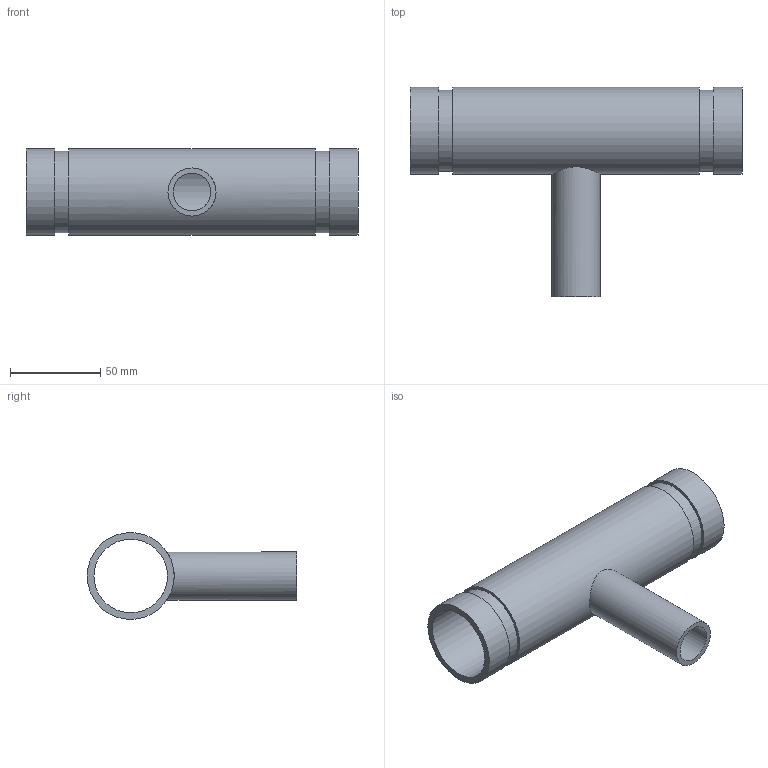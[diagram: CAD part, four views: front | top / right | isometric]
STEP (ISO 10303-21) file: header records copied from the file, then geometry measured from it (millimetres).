
FILE_DESCRIPTION(/* description */ ('VIC REDUCING TEE No 29T FFT (OGSxMPT)','CAx-IF Rec.Pracs.---Representation and Presentation of Product Manufacturing Information (PMI)---4.0---2014-10-13'),/* implementation_level */ '2;1');
FILE_NAME(/* name */ 'C:\Users\kkamble\AppData\Roaming\Autodesk\ApplicationPlugins\Back Up\Victaulic_IPS_Tee Reducing_No 29T FFT (OGSxMPT)\Victaulic_IPS_Tee Reducing_No 29T FFT (OGSxMPT)_01.5x0.75 (40x20).stp',/* time_stamp */ '2020-09-16T22:36:49+05:00',/* author */ ('CORINNE GRAY'),/* organization */ ('Victaulic'),/* preprocessor_version */ 'ST-DEVELOPER v17.2',/* originating_system */ 'Autodesk Inventor 2019',/* authorisation */ '');
FILE_SCHEMA (('AP242_MANAGED_MODEL_BASED_3D_ENGINEERING_MIM_LF { 1 0 10303 442 1 1 4 }'));
Length unit declared in the file: inch
Products named in the file (1): 29 FFT-01.5x0.75
Bounding box: 184.4 x 116.33 x 48.26 mm (x, y, z)
Volume: 105047.7 mm3; surface area: 63407 mm2
Topology: 1 solids, 1 shells, 15 faces, 32 edges, 24 vertices
Faces by surface type: cylinder 8, plane 7
Full cylindrical faces by diameter (mm): 20.93 x1, 26.67 x1, 40.894 x1, 45.085 x2, 48.26 x3
Entity records: 661 total; most frequent: CARTESIAN_POINT 173, DIRECTION 106, ORIENTED_EDGE 64, AXIS2_PLACEMENT_3D 49, EDGE_CURVE 32, EDGE_LOOP 24, VERTEX_POINT 24, CIRCLE 20
